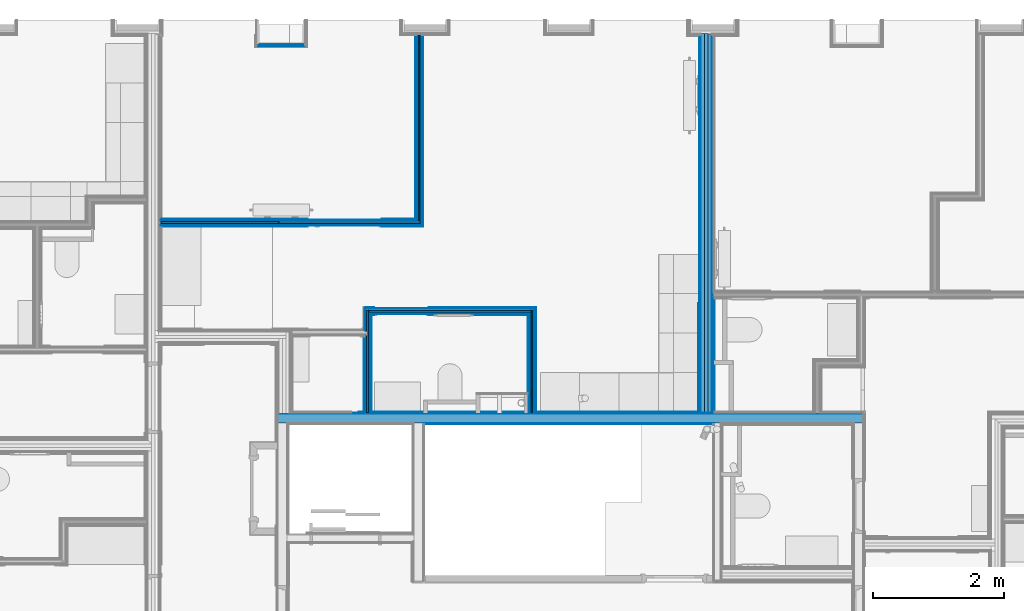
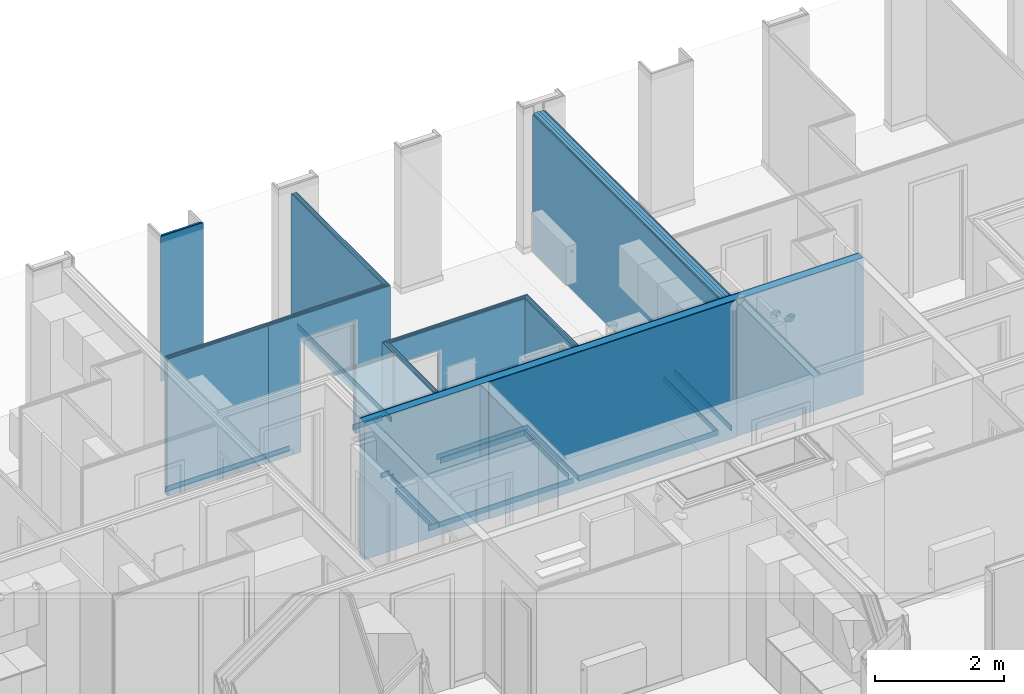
# One storey, part 16 of 85: 59 building element parts, 2 openings, 9 elements without a shape of their own.
"""IFC2X3 building model written with IfcOpenShell, lengths in metres."""

from ifc_helpers import new_model, entity, si_unit, converted_unit, derived_unit, money_unit, direction, frame, frame_2d, origin_with_axes, place, context, subcontext, project, spatial, polyline, rectangle, outline, extrude, material, type_object, element, aggregate, save


model = new_model("IFC2X3")

# Units and contexts
model_context = context("Model", 3, precision=1e-05, world=origin_with_axes(), true_north=direction((0.0, 1.0)))
body_context = subcontext(model_context, "Body", "Model", "MODEL_VIEW", scale=1.0)
ifc_project = project(units=[si_unit("LENGTHUNIT", "METRE"), si_unit("AREAUNIT", "SQUARE_METRE"), si_unit("VOLUMEUNIT", "CUBIC_METRE"), si_unit("ABSORBEDDOSEUNIT", "GRAY"), si_unit("AMOUNTOFSUBSTANCEUNIT", "MOLE"), si_unit("DOSEEQUIVALENTUNIT", "SIEVERT"), si_unit("ELECTRICCAPACITANCEUNIT", "FARAD"), si_unit("ELECTRICCHARGEUNIT", "COULOMB"), si_unit("ELECTRICCONDUCTANCEUNIT", "SIEMENS"), si_unit("ELECTRICCURRENTUNIT", "AMPERE"), si_unit("ELECTRICRESISTANCEUNIT", "OHM"), si_unit("ELECTRICVOLTAGEUNIT", "VOLT"), si_unit("ENERGYUNIT", "JOULE"), si_unit("FORCEUNIT", "NEWTON"), si_unit("FREQUENCYUNIT", "HERTZ"), si_unit("ILLUMINANCEUNIT", "LUX"), si_unit("INDUCTANCEUNIT", "HENRY"), si_unit("LUMINOUSFLUXUNIT", "LUMEN"), si_unit("LUMINOUSINTENSITYUNIT", "CANDELA"), si_unit("MAGNETICFLUXDENSITYUNIT", "TESLA"), si_unit("MAGNETICFLUXUNIT", "WEBER"), si_unit("MASSUNIT", "GRAM"), converted_unit("PLANEANGLEUNIT", "degree", entity("IfcReal", 0.0174532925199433), si_unit("PLANEANGLEUNIT", "RADIAN"), dimensions=[0, 0, 0, 0, 0, 0, 0]), si_unit("POWERUNIT", "WATT"), si_unit("PRESSUREUNIT", "PASCAL"), si_unit("RADIOACTIVITYUNIT", "BECQUEREL"), si_unit("SOLIDANGLEUNIT", "STERADIAN"), si_unit("THERMODYNAMICTEMPERATUREUNIT", "KELVIN"), si_unit("TIMEUNIT", "SECOND"), derived_unit("ACCELERATIONUNIT", [(si_unit("LENGTHUNIT", "METRE"), 1), (si_unit("TIMEUNIT", "SECOND"), -2)]), derived_unit("ANGULARVELOCITYUNIT", [(converted_unit("PLANEANGLEUNIT", "degree", entity("IfcReal", 0.0174532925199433), si_unit("PLANEANGLEUNIT", "RADIAN"), dimensions=[0, 0, 0, 0, 0, 0, 0]), 1), (si_unit("TIMEUNIT", "SECOND"), -1)]), derived_unit("CURVATUREUNIT", [(converted_unit("PLANEANGLEUNIT", "degree", entity("IfcReal", 0.0174532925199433), si_unit("PLANEANGLEUNIT", "RADIAN"), dimensions=[0, 0, 0, 0, 0, 0, 0]), 1), (si_unit("LENGTHUNIT", "METRE"), -1)]), derived_unit("DYNAMICVISCOSITYUNIT", [(si_unit("PRESSUREUNIT", "PASCAL"), 1), (si_unit("TIMEUNIT", "SECOND"), 1)]), derived_unit("HEATFLUXDENSITYUNIT", [(si_unit("POWERUNIT", "WATT"), 1), (si_unit("LENGTHUNIT", "METRE"), -2)]), derived_unit("HEATINGVALUEUNIT", [(si_unit("ENERGYUNIT", "JOULE"), 1), (si_unit("MASSUNIT", "GRAM"), -1)]), derived_unit("INTEGERCOUNTRATEUNIT", [(si_unit("TIMEUNIT", "SECOND"), -1)]), derived_unit("IONCONCENTRATIONUNIT", [(si_unit("MASSUNIT", "GRAM"), 1), (si_unit("VOLUMEUNIT", "CUBIC_METRE"), -1)]), derived_unit("ISOTHERMALMOISTURECAPACITYUNIT", [(si_unit("VOLUMEUNIT", "CUBIC_METRE"), 1), (si_unit("MASSUNIT", "GRAM"), -1)]), derived_unit("KINEMATICVISCOSITYUNIT", [(si_unit("AREAUNIT", "SQUARE_METRE"), 1), (si_unit("TIMEUNIT", "SECOND"), -1)]), derived_unit("LINEARFORCEUNIT", [(si_unit("FORCEUNIT", "NEWTON"), 1), (si_unit("LENGTHUNIT", "METRE"), -1)]), derived_unit("LINEARMOMENTUNIT", [(si_unit("FORCEUNIT", "NEWTON"), 1), (si_unit("LENGTHUNIT", "METRE"), -1)]), derived_unit("LINEARSTIFFNESSUNIT", [(si_unit("FORCEUNIT", "NEWTON"), 1), (si_unit("LENGTHUNIT", "METRE"), -1)]), derived_unit("LINEARVELOCITYUNIT", [(si_unit("LENGTHUNIT", "METRE"), 1), (si_unit("TIMEUNIT", "SECOND"), -1)]), derived_unit("LUMINOUSINTENSITYDISTRIBUTIONUNIT", [(si_unit("LUMINOUSINTENSITYUNIT", "CANDELA"), 1), (si_unit("LUMINOUSFLUXUNIT", "LUMEN"), -1)]), derived_unit("MASSDENSITYUNIT", [(si_unit("MASSUNIT", "GRAM"), 1), (si_unit("VOLUMEUNIT", "CUBIC_METRE"), -1)]), derived_unit("MASSFLOWRATEUNIT", [(si_unit("MASSUNIT", "GRAM"), 1), (si_unit("TIMEUNIT", "SECOND"), -1)]), derived_unit("MASSPERLENGTHUNIT", [(si_unit("MASSUNIT", "GRAM"), 1), (si_unit("LENGTHUNIT", "METRE"), -1)]), derived_unit("MODULUSOFELASTICITYUNIT", [(si_unit("FORCEUNIT", "NEWTON"), 1), (si_unit("AREAUNIT", "SQUARE_METRE"), -1)]), derived_unit("MODULUSOFLINEARSUBGRADEREACTIONUNIT", [(si_unit("FORCEUNIT", "NEWTON"), 1), (si_unit("LENGTHUNIT", "METRE"), -2)]), derived_unit("MODULUSOFROTATIONALSUBGRADEREACTIONUNIT", [(si_unit("FORCEUNIT", "NEWTON"), 1), (si_unit("LENGTHUNIT", "METRE"), 1)]), derived_unit("MODULUSOFSUBGRADEREACTIONUNIT", [(si_unit("FORCEUNIT", "NEWTON"), 1), (si_unit("VOLUMEUNIT", "CUBIC_METRE"), -1)]), derived_unit("MOISTUREDIFFUSIVITYUNIT", [(si_unit("VOLUMEUNIT", "CUBIC_METRE"), 1), (si_unit("TIMEUNIT", "SECOND"), -1)]), derived_unit("MOLECULARWEIGHTUNIT", [(si_unit("MASSUNIT", "GRAM"), 1), (si_unit("AMOUNTOFSUBSTANCEUNIT", "MOLE"), -1)]), derived_unit("PLANARFORCEUNIT", [(si_unit("FORCEUNIT", "NEWTON"), 1), (si_unit("LENGTHUNIT", "METRE"), -2)]), derived_unit("ROTATIONALFREQUENCYUNIT", [(si_unit("TIMEUNIT", "SECOND"), -1)]), derived_unit("ROTATIONALMASSUNIT", [(si_unit("MASSUNIT", "GRAM"), 1), (si_unit("LENGTHUNIT", "METRE"), 2)]), derived_unit("ROTATIONALSTIFFNESSUNIT", [(si_unit("FORCEUNIT", "NEWTON"), 1), (si_unit("LENGTHUNIT", "METRE"), 1), (converted_unit("PLANEANGLEUNIT", "degree", entity("IfcReal", 0.0174532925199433), si_unit("PLANEANGLEUNIT", "RADIAN"), dimensions=[0, 0, 0, 0, 0, 0, 0]), -1)]), derived_unit("SECTIONAREAINTEGRALUNIT", [(si_unit("LENGTHUNIT", "METRE"), 5)]), derived_unit("SECTIONMODULUSUNIT", [(si_unit("LENGTHUNIT", "METRE"), 3)]), derived_unit("SHEARMODULUSUNIT", [(si_unit("FORCEUNIT", "NEWTON"), 1), (si_unit("AREAUNIT", "SQUARE_METRE"), -1)]), derived_unit("SOUNDPOWERUNIT", [(si_unit("ENERGYUNIT", "JOULE"), 1), (si_unit("TIMEUNIT", "SECOND"), -1)]), derived_unit("SPECIFICHEATCAPACITYUNIT", [(si_unit("FORCEUNIT", "NEWTON"), 1), (si_unit("MASSUNIT", "GRAM"), -1), (si_unit("THERMODYNAMICTEMPERATUREUNIT", "KELVIN"), -1)]), derived_unit("TEMPERATUREGRADIENTUNIT", [(si_unit("THERMODYNAMICTEMPERATUREUNIT", "KELVIN"), 1), (si_unit("LENGTHUNIT", "METRE"), -1)]), derived_unit("THERMALADMITTANCEUNIT", [(si_unit("POWERUNIT", "WATT"), 1), (si_unit("AREAUNIT", "SQUARE_METRE"), -1), (si_unit("THERMODYNAMICTEMPERATUREUNIT", "KELVIN"), -1)]), derived_unit("THERMALCONDUCTANCEUNIT", [(si_unit("POWERUNIT", "WATT"), 1), (si_unit("LENGTHUNIT", "METRE"), -1), (si_unit("THERMODYNAMICTEMPERATUREUNIT", "KELVIN"), -1)]), derived_unit("THERMALEXPANSIONCOEFFICIENTUNIT", [(si_unit("THERMODYNAMICTEMPERATUREUNIT", "KELVIN"), -1)]), derived_unit("THERMALRESISTANCEUNIT", [(si_unit("AREAUNIT", "SQUARE_METRE"), 1), (si_unit("POWERUNIT", "WATT"), -1)]), derived_unit("THERMALTRANSMITTANCEUNIT", [(si_unit("POWERUNIT", "WATT"), 1), (si_unit("AREAUNIT", "SQUARE_METRE"), -1), (si_unit("THERMODYNAMICTEMPERATUREUNIT", "KELVIN"), -1)]), derived_unit("TORQUEUNIT", [(si_unit("FORCEUNIT", "NEWTON"), 1), (si_unit("LENGTHUNIT", "METRE"), 1)]), derived_unit("VAPORPERMEABILITYUNIT", [(si_unit("MASSUNIT", "GRAM"), 1), (si_unit("TIMEUNIT", "SECOND"), -1)]), derived_unit("VOLUMETRICFLOWRATEUNIT", [(si_unit("VOLUMEUNIT", "CUBIC_METRE"), 1), (si_unit("TIMEUNIT", "SECOND"), -1)]), derived_unit("WARPINGCONSTANTUNIT", [(si_unit("LENGTHUNIT", "METRE"), 6)]), derived_unit("WARPINGMOMENTUNIT", [(si_unit("FORCEUNIT", "NEWTON"), 1), (si_unit("LENGTHUNIT", "METRE"), 2)]), money_unit("GBP")], contexts=[model_context])

# Site, building, storey
site_placement = place(None, origin_with_axes())
site = spatial("IfcSite", under=ifc_project, at=site_placement, Name="Site", CompositionType="ELEMENT")
building_placement = place(site_placement, origin_with_axes())
building = spatial("IfcBuilding", under=site, at=building_placement, Name="Building01", CompositionType="ELEMENT")
storey_placement = place(building_placement, frame((0.0, 0.0, 12.13), z_axis=(0.0, 0.0, 1.0), x_axis=(1.0, 0.0, 0.0)))
storey = spatial("IfcBuildingStorey", under=building, at=storey_placement, Name="3F", CompositionType="ELEMENT", Elevation=12.13)

# Wall, building element parts
wall_type_1 = type_object("IfcWallType", Name="SHE_A-Walls_Type06d_ExternalWallInsulation_48mm", PredefinedType="NOTDEFINED")
wall_1_placement = place(storey_placement, frame((9.46, 14.45, 0.0), z_axis=(0.0, 0.0, 1.0), x_axis=(-1.0, 0.0, 0.0)))
wall_1 = element("IfcWall", 1, at=wall_1_placement, inside=storey, type_object=wall_type_1, Name="6D", ObjectType="SHE_A-Walls_Type06d_ExternalWallInsulation_48mm")
ifc_material_1 = material(Name="A_BSUK_Insulation")
placement_1 = place(wall_1_placement, origin_with_axes())
building_element_part_1 = element("IfcBuildingElementPart", 2, at=placement_1, material=ifc_material_1, Name="1", context=body_context, shape_type="SweptSolid", body=[
    extrude(outline(polyline([(0.706, 0.036), (-0.036, 0.036), (0.0, 0.0), (0.67, 0.0), (0.706, 0.036)])), origin_with_axes(), (0.0, 0.0, 1.0), 2.74),
])
ifc_material_2 = material(Name="A_BSUK_WallInternal_Finishes_Plasterboard")
building_element_part_2 = element("IfcBuildingElementPart", 3, at=placement_1, material=ifc_material_2, Name="2", context=body_context, shape_type="SweptSolid", body=[
    extrude(outline(polyline([(0.718, 0.048), (-0.048, 0.048), (-0.035, 0.035), (0.705, 0.035), (0.718, 0.048)])), origin_with_axes(), (0.0, 0.0, 1.0), 2.74),
])
aggregate(wall_1, [building_element_part_1, building_element_part_2])

# Wall, opening, building element parts
wall_type_2 = type_object("IfcWallType", Name="SHE_A-Walls_Type05a_Partition_95mm_tall", PredefinedType="NOTDEFINED")
wall_2_placement = place(storey_placement, frame((10.453871, 10.355, 0.0), z_axis=(0.0, 0.0, 1.0), x_axis=(1.0, 0.0, 0.0)))
wall_2 = element("IfcWall", 4, at=wall_2_placement, inside=storey, type_object=wall_type_2, Name="5A", ObjectType="SHE_A-Walls_Type05a_Partition_95mm_tall")
opening_1_placement = place(wall_2_placement, frame((0.086065, -0.05, 0.0), z_axis=(0.0, 0.0, 1.0), x_axis=(1.0, 0.0, 0.0)))
element("IfcOpeningElement", 5, at=opening_1_placement, cuts=wall_2, Name="Opening", ObjectType="Opening", context=body_context, shape_type="SweptSolid", body=[
    extrude(rectangle(XDim=0.834, YDim=2.142, at=frame_2d((-0.417, 1.071), x_axis=(1.0, 0.0))), frame((0.0, 0.0, 0.0), z_axis=(0.0, 1.0, 0.0), x_axis=(-1.0, 0.0, 0.0)), (0.0, 0.0, 1.0), 0.125),
])
ifc_material_3 = material(Name="A_BSUK_Walls_Timber")
placement_2 = place(wall_2_placement, origin_with_axes())
building_element_part_3 = element("IfcBuildingElementPart", 6, at=placement_2, material=ifc_material_3, Name="1", context=body_context, shape_type="SweptSolid", body=[
    extrude(outline(polyline([(2.439714, -0.035), (0.035, -0.035), (0.05, -0.05), (2.424714, -0.05), (2.439714, -0.035)])), frame((0.0, 0.0, 0.015), z_axis=(0.0, 0.0, 1.0), x_axis=(1.0, 0.0, 0.0)), (0.0, 0.0, 1.0), 0.1),
])
building_element_part_4 = element("IfcBuildingElementPart", 7, at=placement_2, material=ifc_material_2, Name="2", context=body_context, shape_type="SweptSolid", body=[
    extrude(outline(polyline([(2.451714, -0.023), (0.023, -0.023), (0.035, -0.035), (2.439714, -0.035), (2.451714, -0.023)])), origin_with_axes(), (0.0, 0.0, 1.0), 2.59),
])
ifc_material_4 = material(Name="Air Cavity")
building_element_part_5 = element("IfcBuildingElementPart", 8, at=placement_2, material=ifc_material_4, Name="3", context=body_context, shape_type="SweptSolid", body=[
    extrude(outline(polyline([(2.474714, 0.0), (0.0, 0.0), (0.023, -0.023), (2.451714, -0.023), (2.474714, 0.0)])), origin_with_axes(), (0.0, 0.0, 1.0), 2.59),
])
building_element_part_6 = element("IfcBuildingElementPart", 9, at=placement_2, material=ifc_material_1, Name="4", context=body_context, shape_type="SweptSolid", body=[
    extrude(rectangle(XDim=2.474714, YDim=0.025, at=frame_2d((1.237357, 0.0125), x_axis=(-1.0, 0.0))), origin_with_axes(), (0.0, 0.0, 1.0), 2.59),
])
building_element_part_7 = element("IfcBuildingElementPart", 10, at=placement_2, material=ifc_material_4, Name="5", context=body_context, shape_type="SweptSolid", body=[
    extrude(rectangle(XDim=2.474714, YDim=0.023, at=frame_2d((1.237357, 0.0365), x_axis=(-1.0, 0.0))), origin_with_axes(), (0.0, 0.0, 1.0), 2.59),
])
building_element_part_8 = element("IfcBuildingElementPart", 11, at=placement_2, material=ifc_material_2, Name="6", context=body_context, shape_type="SweptSolid", body=[
    extrude(outline(polyline([(2.534714, 0.06), (-0.06, 0.06), (-0.048, 0.048), (2.522714, 0.048), (2.534714, 0.06)])), origin_with_axes(), (0.0, 0.0, 1.0), 2.59),
])
building_element_part_9 = element("IfcBuildingElementPart", 12, at=placement_2, material=ifc_material_3, Name="7", context=body_context, shape_type="SweptSolid", body=[
    extrude(outline(polyline([(2.549714, 0.075), (-0.075, 0.075), (-0.06, 0.06), (2.534714, 0.06), (2.549714, 0.075)])), frame((0.0, 0.0, 0.015), z_axis=(0.0, 0.0, 1.0), x_axis=(1.0, 0.0, 0.0)), (0.0, 0.0, 1.0), 0.1),
])
aggregate(wall_2, [building_element_part_3, building_element_part_4, building_element_part_5, building_element_part_6, building_element_part_7, building_element_part_8, building_element_part_9])

# Wall, building element parts
wall_3_placement = place(storey_placement, frame((12.928585, 10.38, 0.0), z_axis=(0.0, 0.0, 1.0), x_axis=(0.0, -1.0, 0.0)))
wall_3 = element("IfcWall", 13, at=wall_3_placement, inside=storey, type_object=wall_type_2, Name="5A", ObjectType="SHE_A-Walls_Type05a_Partition_95mm_tall")
placement_3 = place(wall_3_placement, origin_with_axes())
building_element_part_10 = element("IfcBuildingElementPart", 14, at=placement_3, material=ifc_material_3, Name="1", context=body_context, shape_type="SweptSolid", body=[
    extrude(outline(polyline([(1.426872, -0.035), (0.06, -0.035), (0.075, -0.05), (1.426872, -0.05), (1.426872, -0.035)])), frame((0.0, 0.0, 0.015), z_axis=(0.0, 0.0, 1.0), x_axis=(1.0, 0.0, 0.0)), (0.0, 0.0, 1.0), 0.1),
])
building_element_part_11 = element("IfcBuildingElementPart", 15, at=placement_3, material=ifc_material_2, Name="2", context=body_context, shape_type="SweptSolid", body=[
    extrude(outline(polyline([(1.56, -0.023), (0.048, -0.023), (0.06, -0.035), (1.56, -0.035), (1.56, -0.023)])), origin_with_axes(), (0.0, 0.0, 1.0), 2.59),
])
building_element_part_12 = element("IfcBuildingElementPart", 16, at=placement_3, material=ifc_material_4, Name="3", context=body_context, shape_type="SweptSolid", body=[
    extrude(outline(polyline([(1.56, 0.0), (0.025, 0.0), (0.048, -0.023), (1.56, -0.023), (1.56, 0.0)])), origin_with_axes(), (0.0, 0.0, 1.0), 2.59),
])
building_element_part_13 = element("IfcBuildingElementPart", 17, at=placement_3, material=ifc_material_1, Name="4", context=body_context, shape_type="SweptSolid", body=[
    extrude(rectangle(XDim=1.56, YDim=0.025, at=frame_2d((0.78, 0.0125), x_axis=(-1.0, 0.0))), origin_with_axes(), (0.0, 0.0, 1.0), 2.59),
])
building_element_part_14 = element("IfcBuildingElementPart", 18, at=placement_3, material=ifc_material_4, Name="5", context=body_context, shape_type="SweptSolid", body=[
    extrude(rectangle(XDim=1.56, YDim=0.023, at=frame_2d((0.78, 0.0365), x_axis=(-1.0, 0.0))), origin_with_axes(), (0.0, 0.0, 1.0), 2.59),
])
building_element_part_15 = element("IfcBuildingElementPart", 19, at=placement_3, material=ifc_material_2, Name="6", context=body_context, shape_type="SweptSolid", body=[
    extrude(outline(polyline([(1.56, 0.06), (-0.035, 0.06), (-0.023, 0.048), (1.56, 0.048), (1.56, 0.06)])), origin_with_axes(), (0.0, 0.0, 1.0), 2.59),
])
building_element_part_16 = element("IfcBuildingElementPart", 20, at=placement_3, material=ifc_material_3, Name="7", context=body_context, shape_type="SweptSolid", body=[
    extrude(outline(polyline([(1.545, 0.075), (-0.05, 0.075), (-0.035, 0.06), (1.545, 0.06), (1.545, 0.075)])), frame((0.0, 0.0, 0.015), z_axis=(0.0, 0.0, 1.0), x_axis=(1.0, 0.0, 0.0)), (0.0, 0.0, 1.0), 0.1),
])
aggregate(wall_3, [building_element_part_10, building_element_part_11, building_element_part_12, building_element_part_13, building_element_part_14, building_element_part_15, building_element_part_16])

wall_type_3 = type_object("IfcWallType", Name="SHE_A-Walls_Type01c_Partywall_225mm_twin_tall", PredefinedType="NOTDEFINED")
wall_4_placement = place(storey_placement, frame((15.620132, 8.82, 0.0), z_axis=(0.0, 0.0, 1.0), x_axis=(0.0, 1.0, 0.0)))
wall_4 = element("IfcWall", 21, at=wall_4_placement, inside=storey, type_object=wall_type_3, Name="1C", ObjectType="SHE_A-Walls_Type01c_Partywall_225mm_twin_tall")
placement_4 = place(wall_4_placement, origin_with_axes())
building_element_part_17 = element("IfcBuildingElementPart", 22, at=placement_4, material=ifc_material_3, Name="1", context=body_context, shape_type="SweptSolid", body=[
    extrude(rectangle(XDim=1.75, YDim=0.015, at=frame_2d((0.875, -0.0955), x_axis=(-1.0, 0.0))), frame((0.0, 0.0, 0.015), z_axis=(0.0, 0.0, 1.0), x_axis=(1.0, 0.0, 0.0)), (0.0, 0.0, 1.0), 0.1),
])
building_element_part_18 = element("IfcBuildingElementPart", 23, at=placement_4, material=ifc_material_2, Name="3", context=body_context, shape_type="SweptSolid", body=[
    extrude(rectangle(XDim=5.747, YDim=0.015, at=frame_2d((2.8735, -0.0805), x_axis=(-1.0, 0.0))), origin_with_axes(), (0.0, 0.0, 1.0), 2.59),
])
building_element_part_19 = element("IfcBuildingElementPart", 24, at=placement_4, material=ifc_material_2, Name="4", context=body_context, shape_type="SweptSolid", body=[
    extrude(rectangle(XDim=5.762, YDim=0.015, at=frame_2d((2.881, -0.0655), x_axis=(-1.0, 0.0))), origin_with_axes(), (0.0, 0.0, 1.0), 2.59),
])
building_element_part_20 = element("IfcBuildingElementPart", 25, at=placement_4, material=ifc_material_4, Name="5", context=body_context, shape_type="SweptSolid", body=[
    extrude(rectangle(XDim=5.762, YDim=0.058, at=frame_2d((2.881, -0.029), x_axis=(-1.0, 0.0))), origin_with_axes(), (0.0, 0.0, 1.0), 2.59),
])
building_element_part_21 = element("IfcBuildingElementPart", 26, at=placement_4, material=ifc_material_1, Name="6", context=body_context, shape_type="SweptSolid", body=[
    extrude(rectangle(XDim=5.774, YDim=0.05, at=frame_2d((2.887, 0.025), x_axis=(-1.0, 0.0))), origin_with_axes(), (0.0, 0.0, 1.0), 2.59),
])
building_element_part_22 = element("IfcBuildingElementPart", 27, at=placement_4, material=ifc_material_4, Name="7", context=body_context, shape_type="SweptSolid", body=[
    extrude(rectangle(XDim=5.774, YDim=0.057, at=frame_2d((2.887, 0.0785), x_axis=(-1.0, 0.0))), origin_with_axes(), (0.0, 0.0, 1.0), 2.59),
])
building_element_part_23 = element("IfcBuildingElementPart", 28, at=placement_4, material=ifc_material_2, Name="8", context=body_context, shape_type="SweptSolid", body=[
    extrude(rectangle(XDim=5.762, YDim=0.015, at=frame_2d((2.881, 0.1145), x_axis=(-1.0, 0.0))), origin_with_axes(), (0.0, 0.0, 1.0), 2.59),
])
building_element_part_24 = element("IfcBuildingElementPart", 29, at=placement_4, material=ifc_material_2, Name="9", context=body_context, shape_type="SweptSolid", body=[
    extrude(rectangle(XDim=5.747, YDim=0.015, at=frame_2d((2.8735, 0.1295), x_axis=(-1.0, 0.0))), origin_with_axes(), (0.0, 0.0, 1.0), 2.59),
])
building_element_part_25 = element("IfcBuildingElementPart", 30, at=placement_4, material=ifc_material_3, Name="10", context=body_context, shape_type="SweptSolid", body=[
    extrude(outline(polyline([(1.671912, 0.152), (0.015, 0.152), (0.015, 0.137), (1.656912, 0.137), (1.671912, 0.152)])), frame((0.0, 0.0, 0.015), z_axis=(0.0, 0.0, 1.0), x_axis=(1.0, 0.0, 0.0)), (0.0, 0.0, 1.0), 0.1),
])
aggregate(wall_4, [building_element_part_17, building_element_part_18, building_element_part_19, building_element_part_20, building_element_part_21, building_element_part_22, building_element_part_23, building_element_part_24, building_element_part_25])

wall_5_placement = place(storey_placement, frame((9.09, 11.703124, 0.0), z_axis=(0.0, 0.0, 1.0), x_axis=(-1.0, 0.0, 0.0)))
wall_5 = element("IfcWall", 31, at=wall_5_placement, inside=storey, type_object=wall_type_2, Name="5A", ObjectType="SHE_A-Walls_Type05a_Partition_95mm_tall")
placement_5 = place(wall_5_placement, origin_with_axes())
building_element_part_26 = element("IfcBuildingElementPart", 32, at=placement_5, material=ifc_material_3, Name="1", context=body_context, shape_type="SweptSolid", body=[
    extrude(rectangle(XDim=1.785331, YDim=0.015, at=frame_2d((0.892666, -0.0675), x_axis=(-1.0, 0.0))), frame((0.0, 0.0, 0.015), z_axis=(0.0, 0.0, 1.0), x_axis=(1.0, 0.0, 0.0)), (0.0, 0.0, 1.0), 0.1),
])
building_element_part_27 = element("IfcBuildingElementPart", 33, at=placement_5, material=ifc_material_2, Name="2", context=body_context, shape_type="SweptSolid", body=[
    extrude(rectangle(XDim=1.800331, YDim=0.012, at=frame_2d((0.900166, -0.054), x_axis=(1.0, 0.0))), origin_with_axes(), (0.0, 0.0, 1.0), 2.59),
])
building_element_part_28 = element("IfcBuildingElementPart", 34, at=placement_5, material=ifc_material_4, Name="3", context=body_context, shape_type="SweptSolid", body=[
    extrude(rectangle(XDim=1.800331, YDim=0.023, at=frame_2d((0.900166, -0.0365), x_axis=(1.0, 0.0))), origin_with_axes(), (0.0, 0.0, 1.0), 2.59),
])
building_element_part_29 = element("IfcBuildingElementPart", 35, at=placement_5, material=ifc_material_1, Name="4", context=body_context, shape_type="SweptSolid", body=[
    extrude(rectangle(XDim=1.800331, YDim=0.025, at=frame_2d((0.900166, -0.0125), x_axis=(1.0, 0.0))), origin_with_axes(), (0.0, 0.0, 1.0), 2.59),
])
building_element_part_30 = element("IfcBuildingElementPart", 36, at=placement_5, material=ifc_material_4, Name="5", context=body_context, shape_type="SweptSolid", body=[
    extrude(rectangle(XDim=1.800331, YDim=0.023, at=frame_2d((0.900166, 0.0115), x_axis=(1.0, 0.0))), origin_with_axes(), (0.0, 0.0, 1.0), 2.59),
])
building_element_part_31 = element("IfcBuildingElementPart", 37, at=placement_5, material=ifc_material_2, Name="6", context=body_context, shape_type="SweptSolid", body=[
    extrude(rectangle(XDim=1.800331, YDim=0.012, at=frame_2d((0.900166, 0.029), x_axis=(1.0, 0.0))), origin_with_axes(), (0.0, 0.0, 1.0), 2.59),
])
building_element_part_32 = element("IfcBuildingElementPart", 38, at=placement_5, material=ifc_material_3, Name="7", context=body_context, shape_type="SweptSolid", body=[
    extrude(rectangle(XDim=1.785331, YDim=0.015, at=frame_2d((0.892666, 0.0425), x_axis=(-1.0, 0.0))), frame((0.0, 0.0, 0.015), z_axis=(0.0, 0.0, 1.0), x_axis=(1.0, 0.0, 0.0)), (0.0, 0.0, 1.0), 0.1),
])
aggregate(wall_5, [building_element_part_26, building_element_part_27, building_element_part_28, building_element_part_29, building_element_part_30, building_element_part_31, building_element_part_32])

# Wall, opening, building element parts
wall_6_placement = place(storey_placement, frame((9.09, 11.703124, 0.0), z_axis=(0.0, 0.0, 1.0), x_axis=(1.0, 0.0, 0.0)))
wall_6 = element("IfcWall", 39, at=wall_6_placement, inside=storey, type_object=wall_type_2, Name="5A", ObjectType="SHE_A-Walls_Type05a_Partition_95mm_tall")
opening_2_placement = place(wall_6_placement, frame((0.579, -0.05, -0.015), z_axis=(0.0, 0.0, 1.0), x_axis=(1.0, 0.0, 0.0)))
element("IfcOpeningElement", 40, at=opening_2_placement, cuts=wall_6, Name="Opening", ObjectType="Opening", context=body_context, shape_type="SweptSolid", body=[
    extrude(outline(polyline([(-0.042, 0.0), (-0.042, 0.015), (0.0, 0.015), (0.0, 2.157), (-0.984, 2.157), (-0.984, 0.015), (-0.840883, 0.015), (-0.840883, 0.0), (-0.042, 0.0)])), frame((0.0, 0.0, 0.0), z_axis=(0.0, 1.0, 0.0), x_axis=(-1.0, 0.0, 0.0)), (0.0, 0.0, 1.0), 0.125),
    extrude(outline(polyline([(-0.942, 0.015), (-0.942, 0.0), (-0.042, 0.0), (-0.042, 0.015), (0.0, 0.015), (0.0, 2.157), (-0.984, 2.157), (-0.984, 0.015), (-0.942, 0.015)])), frame((0.0, 0.015, 0.0), z_axis=(0.0, 1.0, 0.0), x_axis=(-1.0, 0.0, 0.0)), (0.0, 0.0, 1.0), 0.012),
    extrude(outline(polyline([(0.0, 2.142), (0.0, 2.157), (-0.984, 2.157), (-0.984, 0.015), (-0.840883, 0.015), (-0.840883, 0.0), (0.143117, 0.0), (0.143117, 2.142), (0.0, 2.142)])), frame((0.0, 0.0, 0.0), z_axis=(0.0, 1.0, 0.0), x_axis=(-1.0, 0.0, 0.0)), (0.0, 0.0, 1.0), 0.015),
    extrude(outline(polyline([(-0.942, 0.015), (-0.942, 0.0), (-0.042, 0.0), (-0.042, 0.015), (0.0, 0.015), (0.0, 2.157), (-0.984, 2.157), (-0.984, 0.015), (-0.942, 0.015)])), frame((0.0, 0.027, 0.0), z_axis=(0.0, 1.0, 0.0), x_axis=(-1.0, 0.0, 0.0)), (0.0, 0.0, 1.0), 0.023),
    extrude(outline(polyline([(-0.942, 0.015), (-0.942, 0.0), (-0.042, 0.0), (-0.042, 0.015), (0.0, 0.015), (0.0, 2.157), (-0.984, 2.157), (-0.984, 0.015), (-0.942, 0.015)])), frame((0.0, 0.05, 0.0), z_axis=(0.0, 1.0, 0.0), x_axis=(-1.0, 0.0, 0.0)), (0.0, 0.0, 1.0), 0.025),
    extrude(outline(polyline([(-0.942, 0.015), (-0.942, 0.0), (-0.042, 0.0), (-0.042, 0.015), (0.0, 0.015), (0.0, 2.157), (-0.984, 2.157), (-0.984, 0.015), (-0.942, 0.015)])), frame((0.0, 0.075, 0.0), z_axis=(0.0, 1.0, 0.0), x_axis=(-1.0, 0.0, 0.0)), (0.0, 0.0, 1.0), 0.023),
    extrude(outline(polyline([(-0.942, 0.015), (-0.942, 0.0), (-0.042, 0.0), (-0.042, 0.015), (0.0, 0.015), (0.0, 2.157), (-0.984, 2.157), (-0.984, 0.015), (-0.942, 0.015)])), frame((0.0, 0.098, 0.0), z_axis=(0.0, 1.0, 0.0), x_axis=(-1.0, 0.0, 0.0)), (0.0, 0.0, 1.0), 0.012),
    extrude(outline(polyline([(-0.840883, 0.015), (-0.840883, 0.0), (0.143117, 0.0), (0.143117, 2.142), (0.0, 2.142), (0.0, 2.157), (-0.984, 2.157), (-0.984, 0.015), (-0.840883, 0.015)])), frame((0.0, 0.11, 0.0), z_axis=(0.0, 1.0, 0.0), x_axis=(-1.0, 0.0, 0.0)), (0.0, 0.0, 1.0), 0.015),
])
placement_6 = place(wall_6_placement, origin_with_axes())
building_element_part_33 = element("IfcBuildingElementPart", 41, at=placement_6, material=ifc_material_3, Name="1", context=body_context, shape_type="SweptSolid", body=[
    extrude(outline(polyline([(2.185, -0.035), (0.0, -0.035), (0.0, -0.05), (2.2, -0.05), (2.185, -0.035)])), frame((0.0, 0.0, 0.015), z_axis=(0.0, 0.0, 1.0), x_axis=(1.0, 0.0, 0.0)), (0.0, 0.0, 1.0), 0.1),
])
building_element_part_34 = element("IfcBuildingElementPart", 42, at=placement_6, material=ifc_material_2, Name="2", context=body_context, shape_type="SweptSolid", body=[
    extrude(outline(polyline([(2.173, -0.023), (0.0, -0.023), (0.0, -0.035), (2.185, -0.035), (2.173, -0.023)])), origin_with_axes(), (0.0, 0.0, 1.0), 2.59),
])
building_element_part_35 = element("IfcBuildingElementPart", 43, at=placement_6, material=ifc_material_4, Name="3", context=body_context, shape_type="SweptSolid", body=[
    extrude(outline(polyline([(2.15, 0.0), (0.0, 0.0), (0.0, -0.023), (2.173, -0.023), (2.15, 0.0)])), origin_with_axes(), (0.0, 0.0, 1.0), 2.59),
])
building_element_part_36 = element("IfcBuildingElementPart", 44, at=placement_6, material=ifc_material_1, Name="4", context=body_context, shape_type="SweptSolid", body=[
    extrude(rectangle(XDim=2.15, YDim=0.025, at=frame_2d((1.075, 0.0125), x_axis=(-1.0, 0.0))), origin_with_axes(), (0.0, 0.0, 1.0), 2.59),
])
building_element_part_37 = element("IfcBuildingElementPart", 45, at=placement_6, material=ifc_material_4, Name="5", context=body_context, shape_type="SweptSolid", body=[
    extrude(rectangle(XDim=2.15, YDim=0.023, at=frame_2d((1.075, 0.0365), x_axis=(-1.0, 0.0))), origin_with_axes(), (0.0, 0.0, 1.0), 2.59),
])
building_element_part_38 = element("IfcBuildingElementPart", 46, at=placement_6, material=ifc_material_2, Name="6", context=body_context, shape_type="SweptSolid", body=[
    extrude(outline(polyline([(2.09, 0.06), (0.0, 0.06), (0.0, 0.048), (2.102, 0.048), (2.09, 0.06)])), origin_with_axes(), (0.0, 0.0, 1.0), 2.59),
])
building_element_part_39 = element("IfcBuildingElementPart", 47, at=placement_6, material=ifc_material_3, Name="7", context=body_context, shape_type="SweptSolid", body=[
    extrude(outline(polyline([(2.075, 0.075), (0.0, 0.075), (0.0, 0.06), (2.09, 0.06), (2.075, 0.075)])), frame((0.0, 0.0, 0.015), z_axis=(0.0, 0.0, 1.0), x_axis=(1.0, 0.0, 0.0)), (0.0, 0.0, 1.0), 0.1),
])
aggregate(wall_6, [building_element_part_33, building_element_part_34, building_element_part_35, building_element_part_36, building_element_part_37, building_element_part_38, building_element_part_39])

# Wall, building element parts
wall_type_4 = type_object("IfcWallType", Name="SHE_A-Walls_Type03a_BlockworkWall_170mm", PredefinedType="NOTDEFINED")
wall_7_placement = place(storey_placement, frame((17.985, 8.805, 0.0), z_axis=(0.0, 0.0, 1.0), x_axis=(-1.0, 0.0, 0.0)))
wall_7 = element("IfcWall", 48, at=wall_7_placement, inside=storey, type_object=wall_type_4, Name="4B", ObjectType="SHE_A-Walls_Type03a_BlockworkWall_170mm")
placement_7 = place(wall_7_placement, origin_with_axes())
building_element_part_40 = element("IfcBuildingElementPart", 49, at=placement_7, material=ifc_material_3, Name="2", context=body_context, shape_type="SweptSolid", body=[
    extrude(rectangle(XDim=2.494547, YDim=0.015, at=frame_2d((3.749142, -0.0225), x_axis=(-1.0, 0.0))), frame((0.0, 0.0, 0.015), z_axis=(0.0, 0.0, 1.0), x_axis=(1.0, 0.0, 0.0)), (0.0, 0.0, 1.0), 0.1),
])
building_element_part_41 = element("IfcBuildingElementPart", 50, at=placement_7, material=ifc_material_3, Name="5", context=body_context, shape_type="SweptSolid", body=[
    extrude(rectangle(XDim=2.589714, YDim=0.015, at=frame_2d((6.386272, -0.0225), x_axis=(-1.0, 0.0))), frame((0.0, 0.0, 0.015), z_axis=(0.0, 0.0, 1.0), x_axis=(1.0, 0.0, 0.0)), (0.0, 0.0, 1.0), 0.1),
])
building_element_part_42 = element("IfcBuildingElementPart", 51, at=placement_7, material=ifc_material_2, Name="7", context=body_context, shape_type="SweptSolid", body=[
    extrude(rectangle(XDim=8.91, YDim=0.015, at=frame_2d((4.455, -0.0075), x_axis=(-1.0, 0.0))), origin_with_axes(), (0.0, 0.0, 1.0), 2.59),
])
ifc_material_5 = material(Name="A_BSUK_WallsInternal_Block")
building_element_part_43 = element("IfcBuildingElementPart", 52, at=placement_7, material=ifc_material_5, Name="8", context=body_context, shape_type="SweptSolid", body=[
    extrude(rectangle(XDim=8.91, YDim=0.14, at=frame_2d((4.455, 0.07), x_axis=(-1.0, 0.0))), origin_with_axes(), (0.0, 0.0, 1.0), 2.59),
])
ifc_material_6 = material(Name="A_BSUK_WallInternal_Finishes_Plaster")
building_element_part_44 = element("IfcBuildingElementPart", 53, at=placement_7, material=ifc_material_6, Name="11", context=body_context, shape_type="SweptSolid", body=[
    extrude(rectangle(XDim=4.43, YDim=0.015, at=frame_2d((4.485, 0.1475), x_axis=(-1.0, 0.0))), origin_with_axes(), (0.0, 0.0, 1.0), 2.59),
])
aggregate(wall_7, [building_element_part_40, building_element_part_41, building_element_part_42, building_element_part_43, building_element_part_44])

wall_8_placement = place(storey_placement, frame((11.24, 11.728124, 0.0), z_axis=(0.0, 0.0, 1.0), x_axis=(0.0, 1.0, 0.0)))
wall_8 = element("IfcWall", 54, at=wall_8_placement, inside=storey, type_object=wall_type_2, Name="5A", ObjectType="SHE_A-Walls_Type05a_Partition_95mm_tall")
placement_8 = place(wall_8_placement, origin_with_axes())
building_element_part_45 = element("IfcBuildingElementPart", 55, at=placement_8, material=ifc_material_3, Name="1", context=body_context, shape_type="SweptSolid", body=[
    extrude(outline(polyline([(2.838876, -0.035), (-0.06, -0.035), (-0.075, -0.05), (2.838876, -0.05), (2.838876, -0.035)])), frame((0.0, 0.0, 0.015), z_axis=(0.0, 0.0, 1.0), x_axis=(1.0, 0.0, 0.0)), (0.0, 0.0, 1.0), 0.1),
])
building_element_part_46 = element("IfcBuildingElementPart", 56, at=placement_8, material=ifc_material_2, Name="2", context=body_context, shape_type="SweptSolid", body=[
    extrude(outline(polyline([(2.853876, -0.023), (-0.048, -0.023), (-0.06, -0.035), (2.853876, -0.035), (2.853876, -0.023)])), origin_with_axes(), (0.0, 0.0, 1.0), 2.59),
])
building_element_part_47 = element("IfcBuildingElementPart", 57, at=placement_8, material=ifc_material_4, Name="3", context=body_context, shape_type="SweptSolid", body=[
    extrude(outline(polyline([(2.853876, 0.0), (-0.025, 0.0), (-0.048, -0.023), (2.853876, -0.023), (2.853876, 0.0)])), origin_with_axes(), (0.0, 0.0, 1.0), 2.59),
])
building_element_part_48 = element("IfcBuildingElementPart", 58, at=placement_8, material=ifc_material_1, Name="4", context=body_context, shape_type="SweptSolid", body=[
    extrude(rectangle(XDim=2.853876, YDim=0.025, at=frame_2d((1.426938, 0.0125), x_axis=(-1.0, 0.0))), origin_with_axes(), (0.0, 0.0, 1.0), 2.59),
])
building_element_part_49 = element("IfcBuildingElementPart", 59, at=placement_8, material=ifc_material_4, Name="5", context=body_context, shape_type="SweptSolid", body=[
    extrude(rectangle(XDim=2.853876, YDim=0.023, at=frame_2d((1.426938, 0.0365), x_axis=(-1.0, 0.0))), origin_with_axes(), (0.0, 0.0, 1.0), 2.59),
])
building_element_part_50 = element("IfcBuildingElementPart", 60, at=placement_8, material=ifc_material_2, Name="6", context=body_context, shape_type="SweptSolid", body=[
    extrude(outline(polyline([(2.853876, 0.06), (0.035, 0.06), (0.023, 0.048), (2.853876, 0.048), (2.853876, 0.06)])), origin_with_axes(), (0.0, 0.0, 1.0), 2.59),
])
building_element_part_51 = element("IfcBuildingElementPart", 61, at=placement_8, material=ifc_material_3, Name="7", context=body_context, shape_type="SweptSolid", body=[
    extrude(outline(polyline([(2.838876, 0.075), (0.05, 0.075), (0.035, 0.06), (2.838876, 0.06), (2.838876, 0.075)])), frame((0.0, 0.0, 0.015), z_axis=(0.0, 0.0, 1.0), x_axis=(1.0, 0.0, 0.0)), (0.0, 0.0, 1.0), 0.1),
])
aggregate(wall_8, [building_element_part_45, building_element_part_46, building_element_part_47, building_element_part_48, building_element_part_49, building_element_part_50, building_element_part_51])

wall_9_placement = place(storey_placement, frame((10.453871, 8.82, 0.0), z_axis=(0.0, 0.0, 1.0), x_axis=(0.0, 1.0, 0.0)))
wall_9 = element("IfcWall", 62, at=wall_9_placement, inside=storey, type_object=wall_type_2, Name="5A", ObjectType="SHE_A-Walls_Type05a_Partition_95mm_tall")
placement_9 = place(wall_9_placement, origin_with_axes())
building_element_part_52 = element("IfcBuildingElementPart", 63, at=placement_9, material=ifc_material_3, Name="1", context=body_context, shape_type="SweptSolid", body=[
    extrude(outline(polyline([(1.5, -0.035), (0.0, -0.035), (0.0, -0.05), (1.485, -0.05), (1.5, -0.035)])), frame((0.0, 0.0, 0.015), z_axis=(0.0, 0.0, 1.0), x_axis=(1.0, 0.0, 0.0)), (0.0, 0.0, 1.0), 0.1),
])
building_element_part_53 = element("IfcBuildingElementPart", 64, at=placement_9, material=ifc_material_2, Name="2", context=body_context, shape_type="SweptSolid", body=[
    extrude(outline(polyline([(1.512, -0.023), (0.0, -0.023), (0.0, -0.035), (1.5, -0.035), (1.512, -0.023)])), origin_with_axes(), (0.0, 0.0, 1.0), 2.59),
])
building_element_part_54 = element("IfcBuildingElementPart", 65, at=placement_9, material=ifc_material_4, Name="3", context=body_context, shape_type="SweptSolid", body=[
    extrude(outline(polyline([(1.535, 0.0), (0.0, 0.0), (0.0, -0.023), (1.512, -0.023), (1.535, 0.0)])), origin_with_axes(), (0.0, 0.0, 1.0), 2.59),
])
building_element_part_55 = element("IfcBuildingElementPart", 66, at=placement_9, material=ifc_material_1, Name="4", context=body_context, shape_type="SweptSolid", body=[
    extrude(rectangle(XDim=1.56, YDim=0.025, at=frame_2d((0.78, 0.0125), x_axis=(-1.0, 0.0))), origin_with_axes(), (0.0, 0.0, 1.0), 2.59),
])
building_element_part_56 = element("IfcBuildingElementPart", 67, at=placement_9, material=ifc_material_4, Name="5", context=body_context, shape_type="SweptSolid", body=[
    extrude(rectangle(XDim=1.56, YDim=0.023, at=frame_2d((0.78, 0.0365), x_axis=(-1.0, 0.0))), origin_with_axes(), (0.0, 0.0, 1.0), 2.59),
])
building_element_part_57 = element("IfcBuildingElementPart", 68, at=placement_9, material=ifc_material_2, Name="6", context=body_context, shape_type="SweptSolid", body=[
    extrude(rectangle(XDim=1.184704, YDim=0.012, at=frame_2d((0.592352, 0.054), x_axis=(-1.0, 0.0))), origin_with_axes(), (0.0, 0.0, 1.0), 2.59),
])
building_element_part_58 = element("IfcBuildingElementPart", 69, at=placement_9, material=ifc_material_2, Name="7", context=body_context, shape_type="SweptSolid", body=[
    extrude(outline(polyline([(1.595, 0.06), (1.255704, 0.06), (1.255704, 0.048), (1.583, 0.048), (1.595, 0.06)])), origin_with_axes(), (0.0, 0.0, 1.0), 2.59),
])
building_element_part_59 = element("IfcBuildingElementPart", 70, at=placement_9, material=ifc_material_3, Name="8", context=body_context, shape_type="SweptSolid", body=[
    extrude(rectangle(XDim=1.142704, YDim=0.015, at=frame_2d((0.586352, 0.0675), x_axis=(-1.0, 0.0))), frame((0.0, 0.0, 0.015), z_axis=(0.0, 0.0, 1.0), x_axis=(1.0, 0.0, 0.0)), (0.0, 0.0, 1.0), 0.1),
])
aggregate(wall_9, [building_element_part_52, building_element_part_53, building_element_part_54, building_element_part_55, building_element_part_56, building_element_part_57, building_element_part_58, building_element_part_59])

save(model, "model.ifc")
